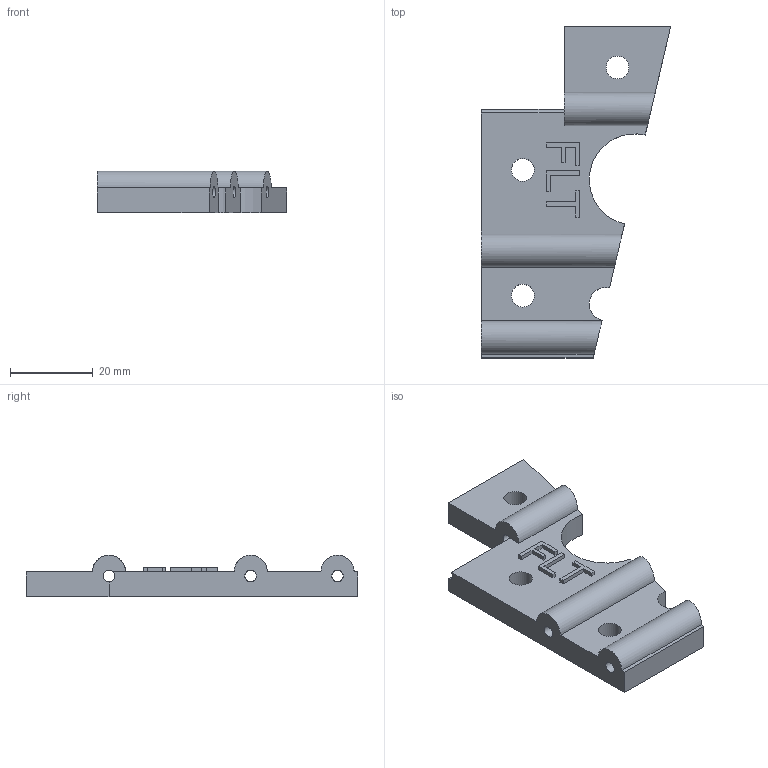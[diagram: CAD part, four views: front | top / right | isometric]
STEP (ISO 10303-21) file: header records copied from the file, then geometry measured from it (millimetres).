
FILE_DESCRIPTION(/* description */ (''),/* implementation_level */ '2;1');
FILE_NAME(/* name */ 'Z - FL Top Frame Tie v2.step',/* time_stamp */ '2023-03-23T06:43:14-06:00',/* author */ (''),/* organization */ (''),/* preprocessor_version */ 'ST-DEVELOPER v19.2',/* originating_system */ 'Autodesk Translation Framework v11.17.0.187',/* authorisation */ '');
FILE_SCHEMA (('AUTOMOTIVE_DESIGN { 1 0 10303 214 3 1 1 }'));
Length unit declared in the file: millimetre
Products named in the file (2): Z - FL Top Frame Tie; FL Top 1
Assembly tree (1 placements, depth 2):
  Z - FL Top Frame Tie
    FL Top 1
Bounding box: 45.63 x 80 x 10 mm (x, y, z)
Volume: 14848 mm3; surface area: 7557.8 mm2
Topology: 1 solids, 1 shells, 51 faces, 142 edges, 95 vertices
Faces by surface type: plane 40, cylinder 11
Full cylindrical faces by diameter (mm): 2.8 x3, 5.5 x3
Entity records: 1712 total; most frequent: CARTESIAN_POINT 291, ORIENTED_EDGE 284, DIRECTION 274, EDGE_CURVE 142, LINE 118, VECTOR 118, VERTEX_POINT 95, AXIS2_PLACEMENT_3D 78
